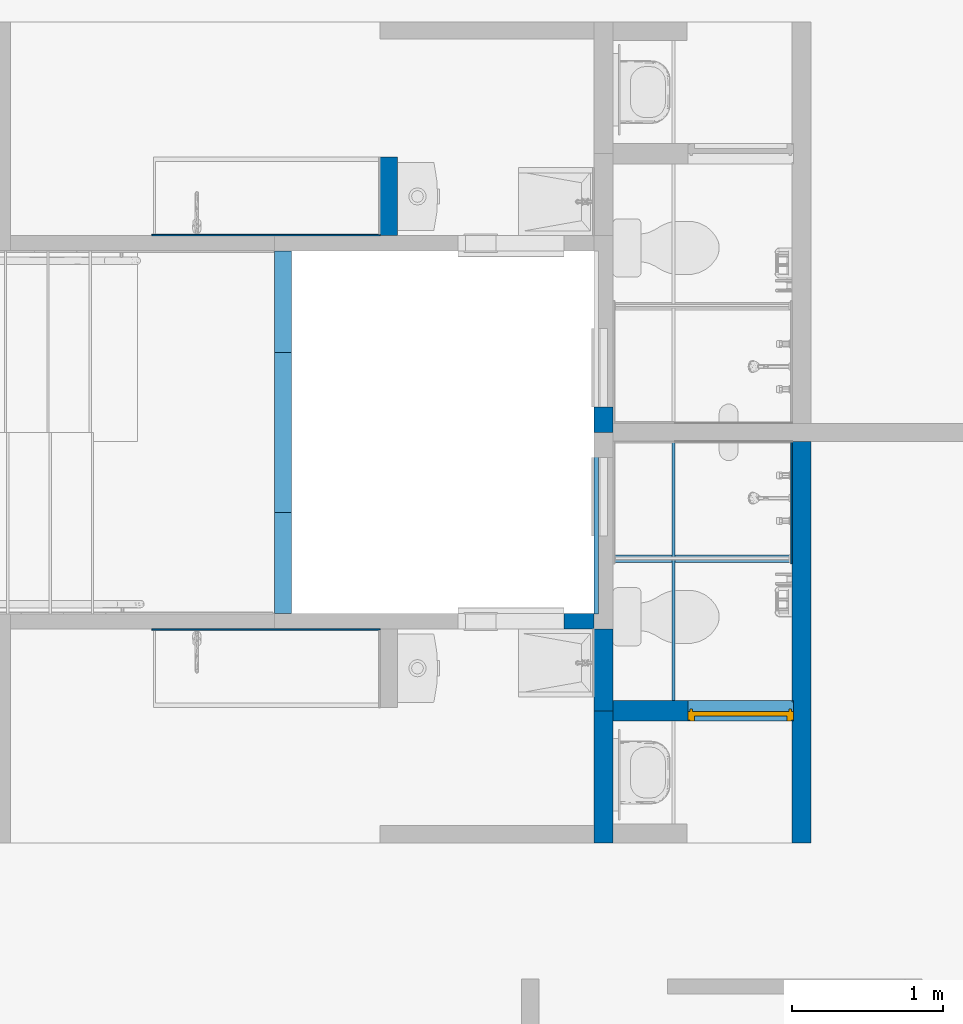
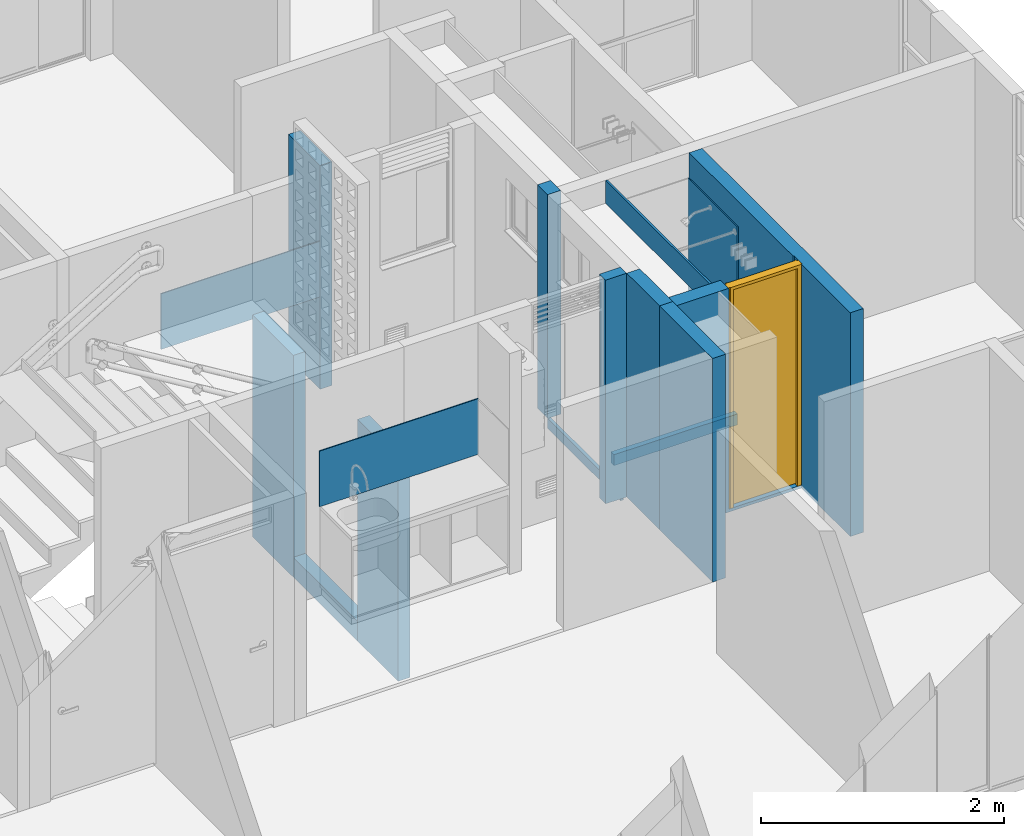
# One storey, part 14 of 48: 16 walls, 1 door, 2 openings.
"""IFC4 building model written with IfcOpenShell, lengths in metres."""

from ifc_helpers import new_model, entity, si_unit, converted_unit, derived_unit, direction, frame, origin, place, context, subcontext, project, spatial, indexed_curve, outline, extrude, polygons, source, transform, mapped, material, constituent, constituent_set, type_object, type_shapes, element, fill, save


model = new_model("IFC4")

# Units and contexts
model_context = context("Model", 3, precision=1e-05, world=origin(), true_north=direction((6.123031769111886e-17, 1.0)))
body_context = subcontext(model_context, "Body", "Model", "MODEL_VIEW")
ifc_project = project(units=[si_unit("LENGTHUNIT", "METRE"), si_unit("AREAUNIT", "SQUARE_METRE"), si_unit("VOLUMEUNIT", "CUBIC_METRE"), converted_unit("PLANEANGLEUNIT", "DEGREE", entity("IfcRatioMeasure", 0.017453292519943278), si_unit("PLANEANGLEUNIT", "RADIAN"), dimensions=[0, 0, 0, 0, 0, 0, 0]), si_unit("MASSUNIT", "GRAM", prefix="KILO"), derived_unit("MASSDENSITYUNIT", [(si_unit("MASSUNIT", "GRAM", prefix="KILO"), 1), (si_unit("LENGTHUNIT", "METRE"), -3)]), derived_unit("IONCONCENTRATIONUNIT", [(si_unit("MASSUNIT", "GRAM", prefix="KILO"), 1), (si_unit("LENGTHUNIT", "METRE"), -3)]), derived_unit("MOMENTOFINERTIAUNIT", [(si_unit("LENGTHUNIT", "METRE"), 4)]), si_unit("TIMEUNIT", "SECOND"), si_unit("FREQUENCYUNIT", "HERTZ"), si_unit("THERMODYNAMICTEMPERATUREUNIT", "DEGREE_CELSIUS"), derived_unit("THERMALTRANSMITTANCEUNIT", [(si_unit("MASSUNIT", "GRAM", prefix="KILO"), 1), (si_unit("THERMODYNAMICTEMPERATUREUNIT", "KELVIN"), -1), (si_unit("TIMEUNIT", "SECOND"), -3)]), derived_unit("THERMALCONDUCTANCEUNIT", [(si_unit("MASSUNIT", "GRAM", prefix="KILO"), 1), (si_unit("THERMODYNAMICTEMPERATUREUNIT", "KELVIN"), -1), (si_unit("TIMEUNIT", "SECOND"), -3), (si_unit("LENGTHUNIT", "METRE"), 1)]), derived_unit("VOLUMETRICFLOWRATEUNIT", [(si_unit("LENGTHUNIT", "METRE"), 3), (si_unit("TIMEUNIT", "SECOND"), -1)]), derived_unit("MASSFLOWRATEUNIT", [(si_unit("MASSUNIT", "GRAM", prefix="KILO"), 1), (si_unit("TIMEUNIT", "SECOND"), -1)]), derived_unit("ROTATIONALFREQUENCYUNIT", [(si_unit("TIMEUNIT", "SECOND"), -1)]), si_unit("ELECTRICCURRENTUNIT", "AMPERE"), si_unit("ELECTRICVOLTAGEUNIT", "VOLT"), si_unit("POWERUNIT", "WATT"), si_unit("FORCEUNIT", "NEWTON", prefix="KILO"), si_unit("ILLUMINANCEUNIT", "LUX"), si_unit("LUMINOUSFLUXUNIT", "LUMEN"), si_unit("LUMINOUSINTENSITYUNIT", "CANDELA"), derived_unit("USERDEFINED", [(si_unit("MASSUNIT", "GRAM", prefix="KILO"), -1), (si_unit("LENGTHUNIT", "METRE"), -2), (si_unit("TIMEUNIT", "SECOND"), 3), (si_unit("LUMINOUSFLUXUNIT", "LUMEN"), 1)]), derived_unit("USERDEFINED", [(si_unit("MASSUNIT", "GRAM", prefix="KILO"), 1), (si_unit("TIMEUNIT", "SECOND"), -3), (si_unit("LENGTHUNIT", "METRE"), 3), (si_unit("ELECTRICCURRENTUNIT", "AMPERE"), -2)]), derived_unit("SOUNDPOWERUNIT", [(si_unit("MASSUNIT", "GRAM", prefix="KILO"), 1), (si_unit("TIMEUNIT", "SECOND"), -3), (si_unit("LENGTHUNIT", "METRE"), 2)]), derived_unit("SOUNDPRESSUREUNIT", [(si_unit("MASSUNIT", "GRAM", prefix="KILO"), 1), (si_unit("LENGTHUNIT", "METRE"), -1), (si_unit("TIMEUNIT", "SECOND"), -2)]), derived_unit("LINEARVELOCITYUNIT", [(si_unit("LENGTHUNIT", "METRE"), 1), (si_unit("TIMEUNIT", "SECOND"), -1)]), si_unit("PRESSUREUNIT", "PASCAL"), derived_unit("USERDEFINED", [(si_unit("MASSUNIT", "GRAM", prefix="KILO"), 1), (si_unit("LENGTHUNIT", "METRE"), -2), (si_unit("TIMEUNIT", "SECOND"), -2)]), derived_unit("LINEARFORCEUNIT", [(si_unit("MASSUNIT", "GRAM", prefix="KILO"), 1), (si_unit("TIMEUNIT", "SECOND"), -2)]), derived_unit("PLANARFORCEUNIT", [(si_unit("MASSUNIT", "GRAM", prefix="KILO"), 1), (si_unit("LENGTHUNIT", "METRE"), -1), (si_unit("TIMEUNIT", "SECOND"), -2)]), derived_unit("SPECIFICHEATCAPACITYUNIT", [(si_unit("THERMODYNAMICTEMPERATUREUNIT", "KELVIN"), -1), (si_unit("LENGTHUNIT", "METRE"), 2), (si_unit("TIMEUNIT", "SECOND"), -2)]), derived_unit("HEATINGVALUEUNIT", [(si_unit("LENGTHUNIT", "METRE"), 2), (si_unit("TIMEUNIT", "SECOND"), -2)]), derived_unit("VAPORPERMEABILITYUNIT", [(si_unit("LENGTHUNIT", "METRE"), -1), (si_unit("TIMEUNIT", "SECOND"), 1)]), derived_unit("DYNAMICVISCOSITYUNIT", [(si_unit("MASSUNIT", "GRAM", prefix="KILO"), 1), (si_unit("TIMEUNIT", "SECOND"), -1), (si_unit("LENGTHUNIT", "METRE"), -1)]), derived_unit("THERMALEXPANSIONCOEFFICIENTUNIT", [(si_unit("THERMODYNAMICTEMPERATUREUNIT", "KELVIN"), -1)]), derived_unit("MODULUSOFELASTICITYUNIT", [(si_unit("MASSUNIT", "GRAM", prefix="KILO"), 1), (si_unit("LENGTHUNIT", "METRE"), -1), (si_unit("TIMEUNIT", "SECOND"), -2)]), derived_unit("ISOTHERMALMOISTURECAPACITYUNIT", [(si_unit("LENGTHUNIT", "METRE"), 3), (si_unit("MASSUNIT", "GRAM", prefix="KILO"), -1)]), derived_unit("MOISTUREDIFFUSIVITYUNIT", [(si_unit("TIMEUNIT", "SECOND"), -1), (si_unit("LENGTHUNIT", "METRE"), 2)])], contexts=[model_context])

# Site, building, storey
site_placement = place(None, origin())
site = spatial("IfcSite", under=ifc_project, at=site_placement, Name="Default", CompositionType="ELEMENT")
building_placement = place(site_placement, origin())
building = spatial("IfcBuilding", under=site, at=building_placement, CompositionType="ELEMENT")
storey_placement = place(building_placement, frame((0.0, 0.0, 9.40000000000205)))
storey = spatial("IfcBuildingStorey", under=building, at=storey_placement, Name="Nivel 5", CompositionType="ELEMENT", Elevation=9.40000000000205)

# Walls
ifc_material_1 = material(Name="Ladrillo claro (Aire)", Category="Materials")
wall_type_1 = type_object("IfcWallType", Name="Basic Wall:B2010 - 0.115m - Muro interior en mampostería - Ladrillo", PredefinedType="STANDARD")
wall_1_placement = place(storey_placement, frame((12.500000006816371, -7.62450002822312, -1.175000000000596), z_axis=(0.0, 0.0, 1.0), x_axis=(0.0, 1.0, 0.0)))
element("IfcWall", 1, at=wall_1_placement, inside=storey, type_object=wall_type_1, material=ifc_material_1, Name="Basic Wall:B2010 - 0.115m - Muro interior en mampostería - Ladrillo", ObjectType="Basic Wall:B2010 - 0.115m - Muro interior en mampostería - Ladrillo", PredefinedType="NOTDEFINED", context=body_context, shape_type="SweptSolid", body=[
    extrude(outline(indexed_curve([(0.669594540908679, 0.05749999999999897), (-1.0377476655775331e-16, 0.057499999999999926), (1.0377476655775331e-16, -0.057499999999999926), (0.6695945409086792, -0.05750000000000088), (0.669594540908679, 0.05749999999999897)], self_intersect=False)), origin(), (0.0, 0.0, 1.0), 2.230000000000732),
])
wall_2_placement = place(storey_placement, frame((12.500000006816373, -5.897500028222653, -1.175000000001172), z_axis=(0.0, 0.0, 1.0), x_axis=(0.0, 1.0, 0.0)))
element("IfcWall", 2, at=wall_2_placement, inside=storey, type_object=wall_type_1, material=ifc_material_1, Name="Basic Wall:B2010 - 0.115m - Muro interior en mampostería - Ladrillo", ObjectType="Basic Wall:B2010 - 0.115m - Muro interior en mampostería - Ladrillo", PredefinedType="NOTDEFINED", context=body_context, shape_type="SweptSolid", body=[
    extrude(outline(indexed_curve([(0.6719999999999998, 0.05749999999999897), (-1.0377476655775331e-16, 0.057499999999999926), (1.0377476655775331e-16, -0.057499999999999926), (0.672, -0.05750000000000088), (0.6719999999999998, 0.05749999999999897)], self_intersect=False)), origin(), (0.0, 0.0, 1.0), 2.230000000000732),
])
wall_3_placement = place(storey_placement, frame((12.500000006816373, -6.954905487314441, -1.175000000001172), z_axis=(0.0, 0.0, 1.0), x_axis=(0.0, 1.0, 0.0)))
element("IfcWall", 3, at=wall_3_placement, inside=storey, type_object=wall_type_1, material=ifc_material_1, Name="Basic Wall:B2010 - 0.115m - Muro interior en mampostería - Ladrillo", ObjectType="Basic Wall:B2010 - 0.115m - Muro interior en mampostería - Ladrillo", PredefinedType="NOTDEFINED", context=body_context, shape_type="SweptSolid", body=[
    extrude(outline(indexed_curve([(1.057405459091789, 0.057499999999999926), (-1.1776912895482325e-16, 0.057499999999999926), (1.1776912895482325e-16, -0.057499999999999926), (1.0574054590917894, -0.057499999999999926), (1.057405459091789, 0.057499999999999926)], self_intersect=False)), origin(), (0.0, 0.0, 1.0), 0.20000000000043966),
])

# Wall, opening
ifc_material_2 = material(Name="Pañete", Category="Materials")
ifc_constituent_1 = constituent(ifc_material_2, Name="Pañete", Category="Materials")
ifc_constituent_2 = constituent(ifc_material_1, Name="Ladrillo claro (Aire)", Category="Materials")
ifc_constituent_set_1 = constituent_set(constituents=[ifc_constituent_1, ifc_constituent_2], Name="Basic Wall:B2010 - 0.115m - Muro interior en mampostería - Ladrillo + Pañete")
wall_type_2 = type_object("IfcWallType", Name="Basic Wall:B2010 - 0.115m - Muro interior en mampostería - Ladrillo + Pañete", PredefinedType="STANDARD", material=ifc_constituent_set_1)
wall_4_placement = place(storey_placement, frame((15.92999894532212, -9.139999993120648, 0.0), z_axis=(0.0, 0.0, 1.0), x_axis=(0.0, 1.0, 0.0)))
wall_4 = element("IfcWall", 4, at=wall_4_placement, inside=storey, type_object=wall_type_2, material=ifc_constituent_set_1, Name="Basic Wall:B2010 - 0.115m - Muro interior en mampostería - Ladrillo + Pañete", ObjectType="Basic Wall:B2010 - 0.115m - Muro interior en mampostería - Ladrillo + Pañete", PredefinedType="NOTDEFINED", context=body_context, shape_type="SweptSolid", body=[
    extrude(outline(indexed_curve([(-0.7550000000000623, -1.4629166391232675), (1.4949999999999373, -1.4629166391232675), (1.4949999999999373, 0.25208332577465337), (-0.7249999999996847, 0.25208332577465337), (-0.7249999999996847, 0.38708332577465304), (1.4949999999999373, 0.38708332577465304), (1.4949999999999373, 1.1920833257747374), (-0.7550000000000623, 1.1920833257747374), (-0.7550000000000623, 0.38708332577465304), (-0.7550000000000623, 0.25208332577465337), (-0.7550000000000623, -0.6629166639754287), (-0.7550000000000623, -0.7129166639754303), (-0.7550000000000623, -1.4629166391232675)], self_intersect=False)), frame((1.1920833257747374, 0.06250000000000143, 0.7550000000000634), z_axis=(0.0, -1.0, 0.0), x_axis=(0.0, 0.0, 1.0)), (0.0, 0.0, 1.0), 0.009999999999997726),
    extrude(outline(indexed_curve([(-0.05750000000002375, -1.3274999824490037), (0.0574999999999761, -1.3274999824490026), (0.05750000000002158, 1.3274999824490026), (-0.05749999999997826, 1.3274999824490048), (-0.05750000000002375, -1.3274999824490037)], self_intersect=False)), frame((1.3274999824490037, -0.00499999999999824, 0.0), z_axis=(0.0, 0.0, 1.0), x_axis=(0.0, 1.0, 0.0)), (0.0, 0.0, 1.0), 2.2499999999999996),
])
opening_1_placement = place(wall_4_placement, origin())
element("IfcOpeningElement", 5, at=opening_1_placement, cuts=wall_4, Name="Basic Wall:B2010 - 0.115m - Muro interior en mampostería - Ladrillo + Pañete", PredefinedType="OPENING", context=body_context, shape_type="SweptSolid", body=[
    extrude(outline(indexed_curve([(-0.06749999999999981, -1.1099999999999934), (0.06749999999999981, -1.1099999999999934), (0.06749999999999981, 1.1099999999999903), (-0.06749999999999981, 1.1099999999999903), (-0.06749999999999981, -1.1099999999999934)], self_intersect=False)), frame((0.8725000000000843, 0.05249999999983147, 1.1400000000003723), z_axis=(0.0, 1.0, 0.0), x_axis=(-1.0, 0.0, 0.0)), (0.0, 0.0, 1.0), 0.7000000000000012),
])

# Wall, opening, door
ifc_constituent_3 = constituent(ifc_material_2, Name="Pañete", Category="Materials")
ifc_material_3 = material(Name="LADRILLO CLARO", Category="Materials")
ifc_constituent_4 = constituent(ifc_material_3, Name="LADRILLO CLARO", Category="Materials")
ifc_constituent_5 = constituent(ifc_material_2, Name="Pañete (2)", Category="Materials")
ifc_constituent_set_2 = constituent_set(constituents=[ifc_constituent_3, ifc_constituent_4, ifc_constituent_5], Name="Basic Wall:B2010 - 0.115m - MI  mampostería no estructural - Pañete + Ladrillo + Pañete")
wall_type_3 = type_object("IfcWallType", Name="Basic Wall:B2010 - 0.115m - MI  mampostería no estructural - Pañete + Ladrillo + Pañete", PredefinedType="STANDARD", material=ifc_constituent_set_2)
wall_5_placement = place(storey_placement, frame((14.68250000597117, -8.267499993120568, 0.0)))
wall_5 = element("IfcWall", 6, at=wall_5_placement, inside=storey, type_object=wall_type_3, material=ifc_constituent_set_2, Name="Basic Wall:B2010 - 0.115m - MI  mampostería no estructural - Pañete + Ladrillo + Pañete", ObjectType="Basic Wall:B2010 - 0.115m - MI  mampostería no estructural - Pañete + Ladrillo + Pañete", PredefinedType="NOTDEFINED", context=body_context, shape_type="SweptSolid", body=[
    extrude(outline(indexed_curve([(-0.7600000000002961, -0.5599992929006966), (1.4900000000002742, -0.5599992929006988), (1.4900000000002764, -0.06500035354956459), (-0.7299999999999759, -0.06500035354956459), (-0.7299999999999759, 0.6249996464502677), (-0.7600000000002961, 0.6249996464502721), (-0.7600000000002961, -0.5599992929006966)], self_intersect=False)), frame((0.5599992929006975, 0.05750000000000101, 0.760000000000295), z_axis=(0.0, 1.0, 0.0), x_axis=(0.0, 0.0, 1.0)), (0.0, 0.0, 1.0), 0.009999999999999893),
    extrude(outline(indexed_curve([(-1.132500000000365, -0.5199994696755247), (1.1175000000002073, -0.5199994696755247), (1.1175000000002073, -0.12999946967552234), (1.1175000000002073, -0.10999946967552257), (1.1175000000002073, -0.025000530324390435), (-1.1025000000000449, -0.025000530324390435), (-1.1025000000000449, 0.6649994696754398), (-1.132500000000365, 0.6649994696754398), (-1.132500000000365, -0.5199994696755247)], self_intersect=False)), frame((0.5199994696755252, -0.06749999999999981, 1.1325000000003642), z_axis=(0.0, 1.0, 0.0), x_axis=(0.0, 0.0, 1.0)), (0.0, 0.0, 1.0), 0.009999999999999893),
    extrude(outline(indexed_curve([(-0.7600000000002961, -0.5633326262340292), (1.4900000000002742, -0.5633326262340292), (1.4900000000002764, -0.068333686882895), (-0.7299999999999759, -0.068333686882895), (-0.7299999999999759, 0.631666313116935), (-0.7600000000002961, 0.631666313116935), (-0.7600000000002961, -0.5633326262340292)], self_intersect=False)), frame((0.5633326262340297, -0.05750000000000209, 0.760000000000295), z_axis=(0.0, 1.0, 0.0), x_axis=(0.0, 0.0, 1.0)), (0.0, 0.0, 1.0), 0.11499999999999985),
])
opening_2_placement = place(wall_5_placement, frame((0.49499893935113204, -0.06749999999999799, 0.029999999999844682)))
opening_2 = element("IfcOpeningElement", 7, at=opening_2_placement, cuts=wall_5, Name="C1030 - Puerta batiente - Madera+Aluminio:C1030 - 0.70 x 2.22 - Puerta batiente - Madera+ Metal:1", PredefinedType="OPENING", context=body_context, shape_type="SweptSolid", body=[
    extrude(outline(indexed_curve([(-2.8961849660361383e-19, 1.218225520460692e-15), (2.2199999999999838, 1.218225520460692e-15), (2.2199999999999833, 0.7000000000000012), (1.438182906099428e-16, 0.7000000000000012), (-2.8961849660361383e-19, 1.218225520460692e-15)], self_intersect=False)), frame((0.0, 0.0, 0.0), z_axis=(0.0, 1.0, 0.0), x_axis=(0.0, 0.0, 1.0)), (0.0, 0.0, 1.0), 0.13499999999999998),
])
ifc_material_4 = material(Name="<Unnamed>")
door_type = type_object("IfcDoorType", Name="C1030 - Puerta batiente - Madera+Aluminio:C1030 - 0.70 x 2.22 - Puerta batiente - Madera+ Metal", OperationType="SINGLE_SWING_RIGHT", PredefinedType="DOOR", material=ifc_material_4)
shared_shape = source(origin(), body_context, "Body", "Tessellation", [
    polygons([(0.030000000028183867, 0.06499999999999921, 0.009880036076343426), (0.6699999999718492, 0.06499999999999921, 0.009880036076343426), (0.6699999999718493, 0.0324999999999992, 0.009880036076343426), (0.030000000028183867, 0.0324999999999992, 0.009880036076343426), (0.030000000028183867, 0.06499999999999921, 2.2050000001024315), (0.030000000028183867, 0.0324999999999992, 2.2050000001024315), (0.6699999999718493, 0.0324999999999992, 2.2050000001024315), (0.6699999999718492, 0.06499999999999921, 2.2050000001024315)], [[[1, 2, 3, 4]], [[5, 1, 4, 6]], [[6, 4, 3, 7]], [[7, 3, 2, 8]], [[8, 2, 1, 5]], [[5, 6, 7, 8]]], closed=True),
    polygons([(0.015000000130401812, 0.0649999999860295, 0.0), (0.015000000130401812, 0.07999999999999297, 0.0), (0.030000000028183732, 0.07999999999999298, 0.0), (0.030000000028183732, 0.04000000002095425, 0.0), (0.045000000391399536, 0.04000000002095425, 0.0), (0.045000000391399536, -1.6919798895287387e-17, 0.0), (0.015000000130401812, -5.075939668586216e-17, 0.0), (0.015000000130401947, 0.007499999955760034, 0.0), (1.651372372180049e-14, 0.0074999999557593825, 0.0), (1.651372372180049e-14, 0.0649999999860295, 0.0), (1.651372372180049e-14, 0.0074999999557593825, 2.2199999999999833), (0.015000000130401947, 0.007499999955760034, 2.2199999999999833), (0.015000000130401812, 0.0649999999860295, 2.2199999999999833), (1.651372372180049e-14, 0.0649999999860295, 2.2199999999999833), (0.6849999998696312, 0.06499999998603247, 0.0), (0.7000000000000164, 0.06499999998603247, 0.0), (0.7000000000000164, 0.007499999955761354, 0.0), (0.6849999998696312, 0.007499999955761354, 0.0), (0.6849999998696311, 0.0, 0.0), (0.6549999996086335, 0.0, 0.0), (0.6549999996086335, 0.04000000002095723, 0.0), (0.6699999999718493, 0.04000000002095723, 0.0), (0.6699999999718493, 0.07999999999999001, 0.0), (0.6849999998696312, 0.07999999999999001, 0.0), (0.7000000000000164, 0.06499999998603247, 2.2199999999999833), (0.6849999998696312, 0.06499999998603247, 2.2199999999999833), (0.6849999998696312, 0.007499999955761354, 2.2199999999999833), (0.7000000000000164, 0.007499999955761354, 2.2199999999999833), (0.6549999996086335, 0.0, 2.189999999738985), (0.6549999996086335, 0.03250000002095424, 2.189999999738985), (0.6549999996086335, 0.03250000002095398, 2.2050000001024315), (0.6549999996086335, 0.04000000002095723, 2.2050000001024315), (0.045000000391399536, 0.04000000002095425, 2.2050000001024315), (0.045000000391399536, 0.03250000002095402, 2.2050000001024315), (0.045000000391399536, 0.032500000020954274, 2.189999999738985), (0.045000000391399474, -1.6919798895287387e-17, 2.189999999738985), (0.6699999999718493, 0.04000000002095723, 2.2050000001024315), (0.6699999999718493, 0.07249999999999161, 2.2050000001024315), (0.6699999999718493, 0.07249999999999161, 2.2199999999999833), (0.6699999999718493, 0.07999999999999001, 2.2199999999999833), (0.030000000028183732, 0.07999999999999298, 2.2199999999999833), (0.030000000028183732, 0.07249999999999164, 2.2199999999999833), (0.030000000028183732, 0.07249999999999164, 2.2050000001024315), (0.030000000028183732, 0.04000000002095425, 2.2050000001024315), (0.6849999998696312, 0.07999999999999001, 2.2199999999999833), (0.6849999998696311, 0.0, 2.2199999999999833), (0.015000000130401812, -5.075939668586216e-17, 2.2199999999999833), (0.015000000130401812, 0.07999999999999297, 2.2199999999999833)], [[[1, 2, 3, 4, 5, 6, 7, 8, 9, 10]], [[11, 9, 8, 12]], [[13, 1, 10, 14]], [[15, 16, 17, 18, 19, 20, 21, 22, 23, 24]], [[25, 16, 15, 26]], [[27, 18, 17, 28]], [[20, 29, 30, 31, 32, 21]], [[5, 33, 34, 35, 36, 6]], [[22, 37, 38, 39, 40, 23]], [[3, 41, 42, 43, 44, 4]], [[28, 17, 16, 25]], [[14, 10, 9, 11]], [[26, 15, 24, 45]], [[45, 24, 23, 40]], [[21, 32, 37, 22]], [[19, 46, 47, 7, 6, 36, 29, 20]], [[46, 19, 18, 27]], [[12, 8, 7, 47]], [[48, 2, 1, 13]], [[26, 45, 40, 39, 42, 41, 48, 13, 14, 11, 12, 47, 46, 27, 28, 25]], [[38, 37, 32, 31, 34, 33, 44, 43]], [[36, 35, 30, 29]], [[4, 44, 33, 5]], [[41, 3, 2, 48]], [[35, 34, 31, 30]], [[43, 42, 39, 38]]], closed=True),
])
type_shapes(door_type, [shared_shape])
door_placement = place(opening_2_placement, origin())
door = element("IfcDoor", 8, at=door_placement, inside=storey, type_object=door_type, material=ifc_material_4, Name="C1030 - Puerta batiente - Madera+Aluminio:C1030 - 0.70 x 2.22 - Puerta batiente - Madera+ Metal", ObjectType="C1030 - Puerta batiente - Madera+Aluminio:C1030 - 0.70 x 2.22 - Puerta batiente - Madera+ Metal", OperationType="NOTDEFINED", OverallHeight=2.2199999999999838, OverallWidth=0.7000000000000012, PredefinedType="DOOR", context=body_context, shape_type="MappedRepresentation", body=[
    mapped(shared_shape, transform((0.0, 0.0, 0.0), scale=1.0)),
])
fill(opening_2, door)

# Walls
ifc_material_5 = material(Name="PINTURA BLANCA PARA EXTERIORES", Category="Materials")
ifc_constituent_6 = constituent(ifc_material_5, Name="PINTURA BLANCA PARA EXTERIORES", Category="Materials")
ifc_material_6 = material(Name="Concreto - Fundido in situ", Category="Materials")
ifc_constituent_7 = constituent(ifc_material_6, Name="Concreto - Fundido in situ", Category="Materials")
ifc_constituent_set_3 = constituent_set(constituents=[ifc_constituent_6, ifc_constituent_7], Name="Basic Wall:B2010 - 0.10m - MI no estructural- Concreto + repello+ pintura blanca")
wall_type_4 = type_object("IfcWallType", Name="Basic Wall:B2010 - 0.10m - MI no estructural- Concreto + repello+ pintura blanca", PredefinedType="STANDARD", material=ifc_constituent_set_3)
wall_6_placement = place(storey_placement, frame((14.557500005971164, -7.675000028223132, 0.0), z_axis=(0.0, 0.0, 1.0), x_axis=(-1.0, 0.0, 0.0)))
element("IfcWall", 9, at=wall_6_placement, inside=storey, type_object=wall_type_4, material=ifc_constituent_set_3, Name="Basic Wall:B2010 - 0.10m - MI no estructural- Concreto + repello+ pintura blanca", ObjectType="Basic Wall:B2010 - 0.10m - MI no estructural- Concreto + repello+ pintura blanca", PredefinedType="NOTDEFINED", context=body_context, shape_type="SweptSolid", body=[
    extrude(outline(indexed_curve([(-0.0004999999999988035, -0.10000000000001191), (0.0005000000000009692, -0.10000000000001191), (0.0004999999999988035, 0.10000000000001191), (-0.0005000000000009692, 0.10000000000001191), (-0.0004999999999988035, -0.10000000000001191)], self_intersect=False)), frame((0.10000000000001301, -0.04999999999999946, 0.0), z_axis=(0.0, 0.0, 1.0), x_axis=(0.0, 1.0, 0.0)), (0.0, 0.0, 1.0), 2.2499999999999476),
    extrude(outline(indexed_curve([(-0.050000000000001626, -0.10000000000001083), (0.04999999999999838, -0.10000000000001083), (0.050000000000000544, 0.10000000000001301), (-0.04999999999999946, 0.10000000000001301), (-0.050000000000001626, -0.10000000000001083)], self_intersect=False)), frame((0.1000000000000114, 0.0004999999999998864, 0.0), z_axis=(0.0, 0.0, 1.0), x_axis=(0.0, -1.0, 0.0)), (0.0, 0.0, 1.0), 2.2499999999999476),
])
wall_type_5 = type_object("IfcWallType", Name="Basic Wall:B2010 - 0.115m - MI mampostería no estructural - Ladrillo", PredefinedType="STANDARD")
wall_7_placement = place(storey_placement, frame((13.200000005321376, -4.605000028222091, 0.0), z_axis=(0.0, 0.0, 1.0), x_axis=(0.0, -1.0, 0.0)))
element("IfcWall", 10, at=wall_7_placement, inside=storey, type_object=wall_type_5, material=ifc_material_3, Name="Basic Wall:B2010 - 0.115m - MI mampostería no estructural - Ladrillo", ObjectType="Basic Wall:B2010 - 0.115m - MI mampostería no estructural - Ladrillo", PredefinedType="NOTDEFINED", context=body_context, shape_type="SweptSolid", body=[
    extrude(outline(indexed_curve([(0.5195000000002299, 0.0574999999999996), (-2.0425946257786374e-16, 0.057499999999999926), (2.0425946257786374e-16, -0.057499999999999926), (0.5195000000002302, -0.057500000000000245), (0.5195000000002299, 0.0574999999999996)], self_intersect=False)), origin(), (0.0, 0.0, 1.0), 2.2500000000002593),
])
ifc_material_7 = material(Name="Pañete, estuco y pintura", Category="Materials")
ifc_constituent_8 = constituent(ifc_material_7, Name="Pañete, estuco y pintura", Category="Materials")
ifc_constituent_9 = constituent(ifc_material_1, Name="Ladrillo claro (Aire)", Category="Materials")
ifc_constituent_set_4 = constituent_set(constituents=[ifc_constituent_8, ifc_constituent_9], Name="Basic Wall:B2010 - 0.115m - Muro interior en mampostería - Ladrillo + Pañete+ estuco+ pintura")
wall_type_6 = type_object("IfcWallType", Name="Basic Wall:B2010 - 0.115m - Muro interior en mampostería - Ladrillo + Pañete+ estuco+ pintura", PredefinedType="STANDARD", material=ifc_constituent_set_4)
wall_8_placement = place(storey_placement, frame((14.620000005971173, -9.139999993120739, 0.0), z_axis=(0.0, 0.0, 1.0), x_axis=(0.0, 1.0, 0.0)))
element("IfcWall", 11, at=wall_8_placement, inside=storey, type_object=wall_type_6, material=ifc_constituent_set_4, Name="Basic Wall:B2010 - 0.115m - Muro interior en mampostería - Ladrillo + Pañete+ estuco+ pintura", ObjectType="Basic Wall:B2010 - 0.115m - Muro interior en mampostería - Ladrillo + Pañete+ estuco+ pintura", PredefinedType="NOTDEFINED", context=body_context, shape_type="SweptSolid", body=[
    extrude(outline(indexed_curve([(-0.32083333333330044, -0.003333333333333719), (0.35916666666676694, -0.003333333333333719), (0.4266666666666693, -0.0033333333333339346), (0.4266666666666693, 0.006666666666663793), (-0.44583333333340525, 0.006666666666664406), (-0.44583333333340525, -0.003333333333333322), (-0.32083333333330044, -0.003333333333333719)], self_intersect=False)), frame((0.44583333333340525, -0.059166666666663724, 0.0)), (0.0, 0.0, 1.0), 2.250000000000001),
    extrude(outline(indexed_curve([(0.2570000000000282, -0.046000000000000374), (0.37200000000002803, -0.046000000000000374), (0.37200000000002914, 0.06900000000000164), (-0.5005000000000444, 0.06899999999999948), (-0.5005000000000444, -0.04600000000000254), (0.2570000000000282, -0.046000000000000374)], self_intersect=False)), frame((0.3720000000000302, 0.016500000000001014, 0.0), z_axis=(0.0, 0.0, 1.0), x_axis=(-1.0, 0.0, 0.0)), (0.0, 0.0, 1.0), 2.250000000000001),
])
wall_9_placement = place(storey_placement, frame((14.620000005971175, -8.26749999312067, 0.0), z_axis=(0.0, 0.0, 1.0), x_axis=(0.0, 1.0, 0.0)))
element("IfcWall", 12, at=wall_9_placement, inside=storey, type_object=wall_type_6, material=ifc_constituent_set_4, Name="Basic Wall:B2010 - 0.115m - Muro interior en mampostería - Ladrillo + Pañete+ estuco+ pintura", ObjectType="Basic Wall:B2010 - 0.115m - Muro interior en mampostería - Ladrillo + Pañete+ estuco+ pintura", PredefinedType="NOTDEFINED", context=body_context, shape_type="SweptSolid", body=[
    extrude(outline(indexed_curve([(-0.16280569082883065, -0.003999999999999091), (0.3117085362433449, -0.003999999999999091), (0.3117085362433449, 0.005999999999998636), (-0.23030569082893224, 0.005999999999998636), (-0.23030569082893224, -0.003999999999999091), (-0.16280569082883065, -0.003999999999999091)], self_intersect=False)), frame((0.23030569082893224, -0.05850000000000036, 0.0)), (0.0, 0.0, 1.0), 2.250000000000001),
    extrude(outline(indexed_curve([(0.09067143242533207, -0.03833333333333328), (0.12467143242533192, -0.03833333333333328), (0.21717139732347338, -0.03833333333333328), (0.21717139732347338, 0.07666666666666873), (-0.32484282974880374, 0.07666666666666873), (-0.32484282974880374, -0.03833333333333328), (0.09067143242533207, -0.03833333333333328)], self_intersect=False)), frame((0.21717139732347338, 0.024166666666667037, 0.0), z_axis=(0.0, 0.0, 1.0), x_axis=(-1.0, 0.0, 0.0)), (0.0, 0.0, 1.0), 2.250000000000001),
])
ifc_material_8 = material(Name="Ceramica 0.25m x 0.35m", Category="Materials")
wall_type_7 = type_object("IfcWallType", Name="Basic Wall:C2010 - 0.25 x 0.35 - Enchape cerámico", PredefinedType="STANDARD")
wall_10_placement = place(storey_placement, frame((15.862498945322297, -6.485000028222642, 0.029999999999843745), z_axis=(0.0, 0.0, 1.0), x_axis=(0.0, -1.0, 0.0)))
element("IfcWall", 13, at=wall_10_placement, inside=storey, type_object=wall_type_7, material=ifc_material_8, Name="Basic Wall:C2010 - 0.25 x 0.35 - Enchape cerámico", ObjectType="Basic Wall:C2010 - 0.25 x 0.35 - Enchape cerámico", PredefinedType="NOTDEFINED", context=body_context, shape_type="SweptSolid", body=[
    extrude(outline(indexed_curve([(0.8100000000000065, 0.005000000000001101), (-4.468811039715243e-19, 0.005000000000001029), (4.468811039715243e-19, -0.005000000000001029), (0.8100000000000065, -0.005000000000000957), (0.8100000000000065, 0.005000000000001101)], self_intersect=False)), origin(), (0.0, 0.0, 1.0), 1.9700000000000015),
])
ifc_material_9 = material(Name="0 muro divisorio", Category="Materials")
wall_type_8 = type_object("IfcWallType", Name="Basic Wall:B2010 - 0.05m - Poyo para duchas - Concreto", PredefinedType="STANDARD")
wall_11_placement = place(storey_placement, frame((15.86749894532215, -7.260000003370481, 0.0), z_axis=(0.0, 0.0, 1.0), x_axis=(-1.0, 0.0, 0.0)))
element("IfcWall", 14, at=wall_11_placement, inside=storey, type_object=wall_type_8, material=ifc_material_9, Name="Basic Wall:B2010 - 0.05m - Poyo para duchas - Concreto", ObjectType="Basic Wall:B2010 - 0.05m - Poyo para duchas - Concreto", PredefinedType="NOTDEFINED", context=body_context, shape_type="SweptSolid", body=[
    extrude(outline(indexed_curve([(1.174998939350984, 0.024999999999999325), (7.772420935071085e-17, 0.02499999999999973), (-7.772420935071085e-17, -0.02499999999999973), (1.1749989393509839, -0.025000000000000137), (1.174998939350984, 0.024999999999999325)], self_intersect=False)), origin(), (0.0, 0.0, 1.0), 0.11000000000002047),
])
ifc_material_10 = material(Name="Plasterboard", Category="Materials")
wall_type_9 = type_object("IfcWallType", Name="Basic Wall:C1070 - 0.02m - Plafón - Drywall", PredefinedType="STANDARD")
wall_12_placement = place(storey_placement, frame((15.082500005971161, -6.485000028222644, 2.019999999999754), z_axis=(0.0, 0.0, 1.0), x_axis=(0.0, -1.0, 0.0)))
element("IfcWall", 15, at=wall_12_placement, inside=storey, type_object=wall_type_9, material=ifc_material_10, Name="Basic Wall:C1070 - 0.02m - Plafón - Drywall", ObjectType="Basic Wall:C1070 - 0.02m - Plafón - Drywall", PredefinedType="NOTDEFINED", context=body_context, shape_type="SweptSolid", body=[
    extrude(outline(indexed_curve([(1.714999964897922, 0.009999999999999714), (1.366511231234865e-17, 0.009999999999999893), (-1.366511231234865e-17, -0.009999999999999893), (1.714999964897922, -0.01000000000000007), (1.714999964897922, 0.009999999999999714)], self_intersect=False)), origin(), (0.0, 0.0, 1.0), 0.23000000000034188),
])
ifc_material_11 = material(Name="Ceramica Salpicadero 0.28m x 0.45m", Category="Materials")
wall_type_10 = type_object("IfcWallType", Name="Basic Wall:C2010 - 0.28 x 0.45 - Salpicadero - Cerámica", PredefinedType="STANDARD")
wall_13_placement = place(storey_placement, frame((13.142500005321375, -5.120000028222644, 0.9299999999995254), z_axis=(0.0, 0.0, 1.0), x_axis=(-1.0, 0.0, 0.0)))
element("IfcWall", 16, at=wall_13_placement, inside=storey, type_object=wall_type_10, material=ifc_material_11, Name="Basic Wall:C2010 - 0.28 x 0.45 - Salpicadero - Cerámica", ObjectType="Basic Wall:C2010 - 0.28 x 0.45 - Salpicadero - Cerámica", PredefinedType="NOTDEFINED", context=body_context, shape_type="SweptSolid", body=[
    extrude(outline(indexed_curve([(1.5100000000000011, 0.004999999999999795), (1.8429308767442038e-17, 0.004999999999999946), (-1.8429308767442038e-17, -0.004999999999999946), (1.5100000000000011, -0.005000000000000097), (1.5100000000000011, 0.004999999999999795)], self_intersect=False)), origin(), (0.0, 0.0, 1.0), 0.5599999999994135),
])
wall_14_placement = place(storey_placement, frame((13.142500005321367, -7.730000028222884, 0.9299999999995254), z_axis=(0.0, 0.0, 1.0), x_axis=(-1.0, 0.0, 0.0)))
element("IfcWall", 17, at=wall_14_placement, inside=storey, type_object=wall_type_10, material=ifc_material_11, Name="Basic Wall:C2010 - 0.28 x 0.45 - Salpicadero - Cerámica", ObjectType="Basic Wall:C2010 - 0.28 x 0.45 - Salpicadero - Cerámica", PredefinedType="NOTDEFINED", context=body_context, shape_type="SweptSolid", body=[
    extrude(outline(indexed_curve([(1.509999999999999, 0.004999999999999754), (-4.956090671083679e-17, 0.004999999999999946), (4.956090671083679e-17, -0.004999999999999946), (1.509999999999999, -0.005000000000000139), (1.509999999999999, 0.004999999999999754)], self_intersect=False)), origin(), (0.0, 0.0, 1.0), 0.5599999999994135),
])
ifc_constituent_10 = constituent(ifc_material_2, Name="Pañete", Category="Materials")
ifc_constituent_11 = constituent(ifc_material_3, Name="LADRILLO CLARO", Category="Materials")
ifc_constituent_set_5 = constituent_set(constituents=[ifc_constituent_10, ifc_constituent_11], Name="Basic Wall:B2010 - 0.115m - MI  mampostería no estructural - Ladrillo + Pañete")
wall_type_11 = type_object("IfcWallType", Name="Basic Wall:B2010 - 0.115m - MI  mampostería no estructural - Ladrillo + Pañete", PredefinedType="STANDARD", material=ifc_constituent_set_5)
wall_15_placement = place(storey_placement, frame((14.620000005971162, -6.257812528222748, 0.0), z_axis=(0.0, 0.0, 1.0), x_axis=(0.0, -1.0, 0.0)))
element("IfcWall", 18, at=wall_15_placement, inside=storey, type_object=wall_type_11, material=ifc_constituent_set_5, Name="Basic Wall:B2010 - 0.115m - MI  mampostería no estructural - Ladrillo + Pañete", ObjectType="Basic Wall:B2010 - 0.115m - MI  mampostería no estructural - Ladrillo + Pañete", PredefinedType="NOTDEFINED", context=body_context, shape_type="SweptSolid", body=[
    extrude(outline(indexed_curve([(-0.005000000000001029, -0.08359375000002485), (0.004999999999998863, -0.08359375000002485), (0.005000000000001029, 0.08359375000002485), (-0.004999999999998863, 0.08359375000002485), (-0.005000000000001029, -0.08359375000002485)], self_intersect=False)), frame((0.08359375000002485, 0.05750000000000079, 0.0), z_axis=(0.0, 0.0, 1.0), x_axis=(0.0, -1.0, 0.0)), (0.0, 0.0, 1.0), 2.2500000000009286),
    extrude(outline(indexed_curve([(-0.0575000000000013, -0.08359375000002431), (0.057499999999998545, -0.08359375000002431), (0.057499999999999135, 0.08359375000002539), (-0.05750000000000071, 0.08359375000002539), (-0.0575000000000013, -0.08359375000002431)], self_intersect=False)), frame((0.08359375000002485, -0.004999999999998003, 0.0), z_axis=(0.0, 0.0, 1.0), x_axis=(0.0, 1.0, 0.0)), (0.0, 0.0, 1.0), 2.2500000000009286),
])
wall_type_12 = type_object("IfcWallType", Name="Basic Wall:B2010 - 0.03m - ME enchape  no estructural - Ladrillo", PredefinedType="STANDARD")
wall_16_placement = place(storey_placement, frame((14.572500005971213, -7.625000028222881, -0.10000000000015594), z_axis=(0.0, 0.0, 1.0), x_axis=(0.0, 1.0, 0.0)))
element("IfcWall", 19, at=wall_16_placement, inside=storey, type_object=wall_type_12, material=ifc_material_3, Name="Basic Wall:B2010 - 0.03m - ME enchape  no estructural - Ladrillo", ObjectType="Basic Wall:B2010 - 0.03m - ME enchape  no estructural - Ladrillo", PredefinedType="NOTDEFINED", context=body_context, shape_type="SweptSolid", body=[
    extrude(outline(indexed_curve([(1.2000000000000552, 0.015000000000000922), (2.7071678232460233e-17, 0.015000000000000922), (-2.7071678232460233e-17, -0.015000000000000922), (1.2000000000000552, -0.015000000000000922), (1.2000000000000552, 0.015000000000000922)], self_intersect=False)), origin(), (0.0, 0.0, 1.0), 0.09999999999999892),
])

save(model, "model.ifc")
